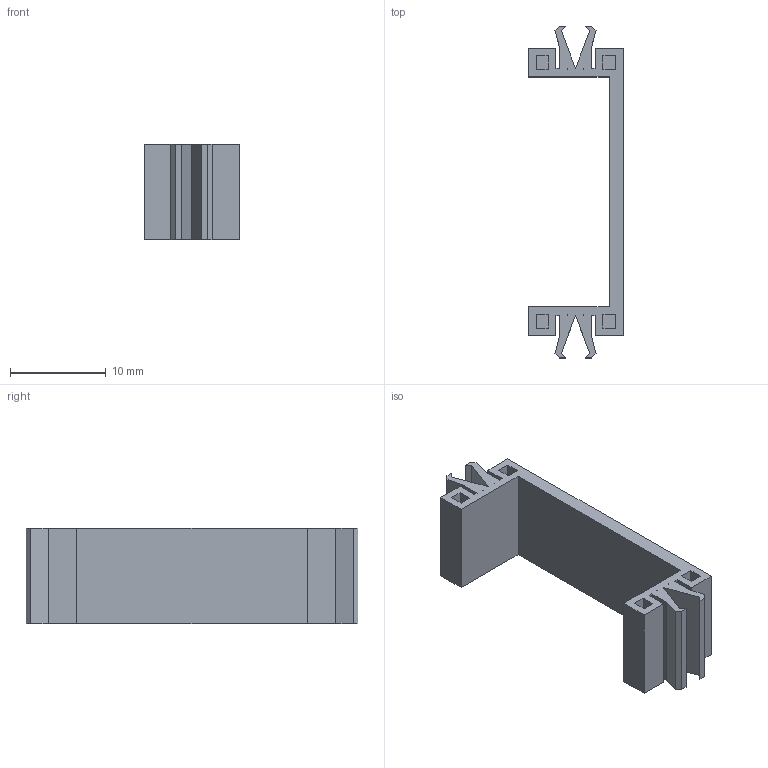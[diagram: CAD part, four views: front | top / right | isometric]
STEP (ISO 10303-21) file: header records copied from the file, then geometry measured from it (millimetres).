
FILE_DESCRIPTION(/* description */ (''),/* implementation_level */ '2;1');
FILE_NAME(/* name */ 'C:/Users/priba/Downloads/Plate1x3x1.step',/* time_stamp */ '2020-06-09T22:20:16+02:00',/* author */ (''),/* organization */ (''),/* preprocessor_version */ 'ST-DEVELOPER v18.1',/* originating_system */ 'Autodesk Translation Framework v9.3.0.1241',/* authorisation */ '');
FILE_SCHEMA (('AUTOMOTIVE_DESIGN { 1 0 10303 214 3 1 1 }'));
Length unit declared in the file: millimetre
Products named in the file (1): Plate1x3x1
Bounding box: 9.9 x 34.61 x 10 mm (x, y, z)
Volume: 886.8 mm3; surface area: 1786.2 mm2
Topology: 1 solids, 1 shells, 82 faces, 216 edges, 144 vertices
Faces by surface type: plane 82
Entity records: 2502 total; most frequent: CARTESIAN_POINT 443, ORIENTED_EDGE 432, DIRECTION 382, LINE 216, VECTOR 216, EDGE_CURVE 216, VERTEX_POINT 144, EDGE_LOOP 90
